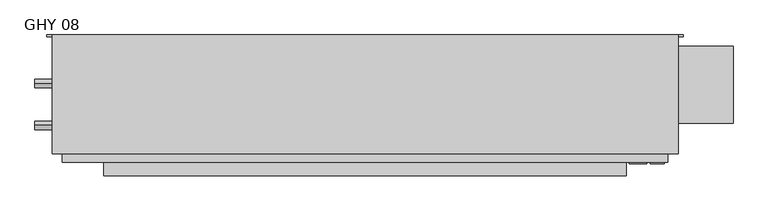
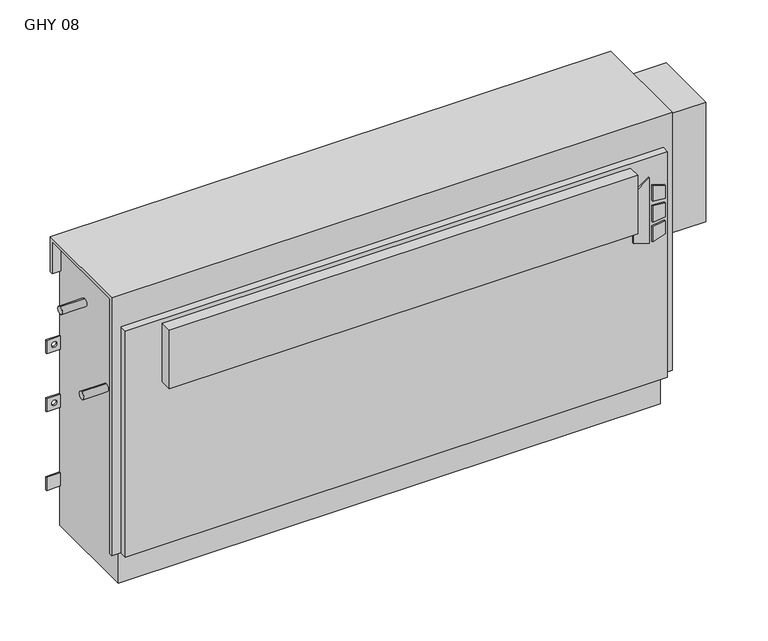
"""IFC4 building model written with IfcOpenShell, lengths in millimetres: proxy geometry, Vertical_Fan_Coil_Unit_-_GHY_-_IEC_-_2-Pipe_FS-FR_LH_2022 : GHY 08."""

from ifc_helpers import new_model, si_unit, point, frame, frame_2d, origin, place, context, project, spatial, polyline, circle_curve, trimmed, segment, composite_curve, outline, extrude, source, transform, mapped, element, save
from ifc_brep_helpers import plane_surface, revolved_surface, advanced_brep


def ghy_08_79be1acd(model_context):
    return source(origin(), model_context, "Body", "SolidModel", [
        extrude(outline(polyline([(391.6086829, 639.8368862), (381.6606126, 672.0102728), (523.831537, 672.0102728), (500.8095309, 639.8368862), (391.6086829, 639.8368862)])), frame((0.0, 6.35, 0.0), z_axis=(0.0, 1.0, 0.0), x_axis=(0.0, 0.0, 1.0)), (0.0, 0.0, 1.0), 3.175),
        extrude(outline(polyline([(470.6079683, 678.7686058), (467.4055757, 704.85), (496.6344168, 704.85), (504.6988318, 678.7686058), (470.6079683, 678.7686058)])), frame((0.0, 6.35, 0.0), z_axis=(0.0, 1.0, 0.0), x_axis=(0.0, 0.0, 1.0)), (0.0, 0.0, 1.0), 3.175),
        extrude(outline(polyline([(418.7444414, 704.85), (415.0789404, 678.7686058), (381.6606126, 678.7686058), (390.2948498, 704.85), (418.7444414, 704.85)])), frame((0.0, 6.35, 0.0), z_axis=(0.0, 1.0, 0.0), x_axis=(0.0, 0.0, 1.0)), (0.0, 0.0, 1.0), 3.175),
        extrude(outline(polyline([(458.0596028, 704.85), (460.3414292, 678.7686058), (424.4038806, 678.7686058), (427.1451456, 704.85), (458.0596028, 704.85)])), frame((0.0, 6.35, 0.0), z_axis=(0.0, 1.0, 0.0), x_axis=(0.0, 0.0, 1.0)), (0.0, 0.0, 1.0), 3.175),
        extrude(outline(polyline([(635.0, -15.875), (-330.2, -15.875), (-330.2, 9.525), (635.0, 9.525), (635.0, -15.875)])), frame((0.0, 0.0, 428.625), z_axis=(0.0, 0.0, 1.0), x_axis=(1.0, 0.0, 0.0)), (0.0, 0.0, 1.0), 127.0),
        extrude(outline(composite_curve([segment(trimmed(circle_curve(frame_2d((77.597, 401.574)), 7.9375), [point((77.597, 409.5115))], [point((77.597, 393.6365))], False, "CARTESIAN"), True, "CONTINUOUS"), segment(trimmed(circle_curve(frame_2d((77.597, 401.574)), 7.9375), [point((77.597, 393.6365))], [point((77.597, 409.5115))], False, "CARTESIAN"), True, "CONTINUOUS")], self_intersect=False)), frame((-457.2, 0.0, 0.0), z_axis=(1.0, 0.0, 0.0), x_axis=(0.0, 1.0, 0.0)), (0.0, 0.0, 1.0), 50.8),
        extrude(outline(composite_curve([segment(trimmed(circle_curve(frame_2d((154.559, 540.512)), 7.9375), [point((154.559, 548.4495))], [point((154.559, 532.5745))], False, "CARTESIAN"), True, "CONTINUOUS"), segment(trimmed(circle_curve(frame_2d((154.559, 540.512)), 7.9375), [point((154.559, 532.5745))], [point((154.559, 548.4495))], False, "CARTESIAN"), True, "CONTINUOUS")], self_intersect=False)), frame((-457.2, 0.0, 0.0), z_axis=(1.0, 0.0, 0.0), x_axis=(0.0, 1.0, 0.0)), (0.0, 0.0, 1.0), 50.8),
        extrude(outline(polyline([(831.85, 223.266), (831.85, 81.534), (711.2, 81.534), (711.2, 223.266), (831.85, 223.266)])), frame((0.0, 0.0, 327.025), z_axis=(0.0, 0.0, 1.0), x_axis=(1.0, 0.0, 0.0)), (0.0, 0.0, 1.0), 260.35),
        advanced_brep(
        [(730.25, 244.475, 635.0), (-425.45, 244.475, 635.0), (-425.45, 25.4, 635.0), (730.25, 25.4, 635.0), (-406.4, 244.475, 0.0), (711.2, 244.475, 0.0), (711.2, 34.925, 0.0), (-406.4, 34.925, 0.0), (730.25, 244.475, 558.8), (711.2, 244.475, 558.8), (711.2, 244.475, 414.3375), (739.775, 244.475, 414.3375), (739.775, 244.475, 385.7625), (711.2, 244.475, 385.7625), (711.2, 244.475, 287.3375), (739.775, 244.475, 287.3375), (739.775, 244.475, 258.7625), (711.2, 244.475, 258.7625), (711.2, 244.475, 141.2875), (739.775, 244.475, 141.2875), (739.775, 244.475, 112.7125), (711.2, 244.475, 112.7125), (-406.4, 244.475, 87.3125), (-434.975, 244.475, 87.3125), (-434.975, 244.475, 115.8875), (-406.4, 244.475, 115.8875), (-406.4, 244.475, 258.7625), (-434.975, 244.475, 258.7625), (-434.975, 244.475, 287.3375), (-406.4, 244.475, 287.3375), (-406.4, 244.475, 385.7625), (-434.975, 244.475, 385.7625), (-434.975, 244.475, 414.3375), (-406.4, 244.475, 414.3375), (-406.4, 244.475, 558.8), (-425.45, 244.475, 558.8), (729.4626, 244.475, 127.0), (718.3374, 244.475, 127.0), (729.4626, 244.475, 273.05), (718.3374, 244.475, 273.05), (-413.5374, 244.475, 273.05), (-424.6626, 244.475, 273.05), (729.4626, 244.475, 400.05), (718.3374, 244.475, 400.05), (-413.5374, 244.475, 400.05), (-424.6626, 244.475, 400.05), (-425.45, 238.125, 558.8), (-425.45, 238.125, 628.65), (-425.45, 31.75, 628.65), (-425.45, 31.75, 73.025), (-425.45, 25.4, 73.025), (711.2, 9.525, 565.15), (-406.4, 9.525, 565.15), (-406.4, 9.525, 73.025), (711.2, 9.525, 73.025), (730.25, 25.4, 73.025), (730.25, 31.75, 73.025), (730.25, 31.75, 628.65), (730.25, 238.125, 628.65), (730.25, 238.125, 558.8), (-406.4, 25.4, 73.025), (-406.4, 25.4, 565.15), (711.2, 25.4, 565.15), (711.2, 25.4, 73.025), (-406.4, 31.75, 73.025), (-406.4, 34.925, 73.025), (711.2, 34.925, 73.025), (711.2, 31.75, 73.025), (711.2, 241.3, 112.7125), (711.2, 241.3, 141.2875), (711.2, 241.3, 258.7625), (711.2, 241.3, 287.3375), (711.2, 241.3, 385.7625), (711.2, 241.3, 414.3375), (711.2, 238.125, 558.8), (711.2, 238.125, 628.65), (711.2, 31.75, 628.65), (-406.4, 31.75, 628.65), (-406.4, 238.125, 628.65), (-406.4, 238.125, 558.8), (-406.4, 241.3, 414.3375), (-406.4, 241.3, 385.7625), (-406.4, 241.3, 287.3375), (-406.4, 241.3, 258.7625), (-406.4, 241.3, 115.8875), (-406.4, 241.3, 87.3125), (739.775, 241.3, 112.7125), (739.775, 241.3, 141.2875), (718.3374, 241.3, 127.0), (729.4626, 241.3, 127.0), (739.775, 241.3, 258.7625), (739.775, 241.3, 287.3375), (718.3374, 241.3, 273.05), (729.4626, 241.3, 273.05), (739.775, 241.3, 385.7625), (739.775, 241.3, 414.3375), (718.3374, 241.3, 400.05), (729.4626, 241.3, 400.05), (-434.975, 241.3, 115.8875), (-434.975, 241.3, 87.3125), (-434.975, 241.3, 287.3375), (-434.975, 241.3, 258.7625), (-424.6626, 241.3, 273.05), (-413.5374, 241.3, 273.05), (-434.975, 241.3, 414.3375), (-434.975, 241.3, 385.7625), (-424.6626, 241.3, 400.05), (-413.5374, 241.3, 400.05)],
        [
            (0, 1),
            (1, 2),
            (2, 3),
            (3, 0),
            (4, 5),
            (5, 6),
            (6, 7),
            (7, 4),
            (0, 8),
            (8, 9),
            (9, 10),
            (10, 11),
            (11, 12),
            (12, 13),
            (13, 14),
            (14, 15),
            (15, 16),
            (16, 17),
            (17, 18),
            (18, 19),
            (19, 20),
            (20, 21),
            (21, 5),
            (4, 22),
            (22, 23),
            (23, 24),
            (24, 25),
            (25, 26),
            (26, 27),
            (27, 28),
            (28, 29),
            (29, 30),
            (30, 31),
            (31, 32),
            (32, 33),
            (33, 34),
            (34, 35),
            (35, 1),
            (36, 37, circle_curve(frame((723.9, 244.475, 127.0), z_axis=(0.0, -1.0, 0.0), x_axis=(-1.0, 0.0, 0.0)), 5.5626)),
            (37, 36, circle_curve(frame((723.9, 244.475, 127.0), z_axis=(0.0, -1.0, 0.0), x_axis=(-1.0, 0.0, 0.0)), 5.5626)),
            (38, 39, circle_curve(frame((723.9, 244.475, 273.05), z_axis=(0.0, -1.0, 0.0), x_axis=(-1.0, 0.0, 0.0)), 5.5626)),
            (39, 38, circle_curve(frame((723.9, 244.475, 273.05), z_axis=(0.0, -1.0, 0.0), x_axis=(-1.0, 0.0, 0.0)), 5.5626)),
            (40, 41, circle_curve(frame((-419.1, 244.475, 273.05), z_axis=(0.0, -1.0, 0.0), x_axis=(-1.0, 0.0, 0.0)), 5.5626)),
            (41, 40, circle_curve(frame((-419.1, 244.475, 273.05), z_axis=(0.0, -1.0, 0.0), x_axis=(-1.0, 0.0, 0.0)), 5.5626)),
            (42, 43, circle_curve(frame((723.9, 244.475, 400.05), z_axis=(0.0, -1.0, 0.0), x_axis=(-1.0, 0.0, 0.0)), 5.5626)),
            (43, 42, circle_curve(frame((723.9, 244.475, 400.05), z_axis=(0.0, -1.0, 0.0), x_axis=(-1.0, 0.0, 0.0)), 5.5626)),
            (44, 45, circle_curve(frame((-419.1, 244.475, 400.05), z_axis=(0.0, -1.0, 0.0), x_axis=(-1.0, 0.0, 0.0)), 5.5626)),
            (45, 44, circle_curve(frame((-419.1, 244.475, 400.05), z_axis=(0.0, -1.0, 0.0), x_axis=(-1.0, 0.0, 0.0)), 5.5626)),
            (35, 46),
            (46, 47),
            (47, 48),
            (48, 49),
            (49, 50),
            (50, 2),
            (51, 52),
            (52, 53),
            (53, 54),
            (54, 51),
            (3, 55),
            (55, 56),
            (56, 57),
            (57, 58),
            (58, 59),
            (59, 8),
            (50, 60),
            (60, 61),
            (61, 62),
            (62, 63),
            (63, 55),
            (51, 62),
            (61, 52),
            (53, 60),
            (49, 64),
            (64, 65),
            (65, 66),
            (66, 67),
            (67, 56),
            (63, 54),
            (6, 66),
            (65, 7),
            (21, 68),
            (68, 69),
            (69, 18),
            (17, 70),
            (70, 71),
            (71, 14),
            (13, 72),
            (72, 73),
            (73, 10),
            (9, 74),
            (74, 75),
            (75, 76),
            (76, 67),
            (64, 77),
            (77, 78),
            (78, 79),
            (79, 34),
            (33, 80),
            (80, 81),
            (81, 30),
            (29, 82),
            (82, 83),
            (83, 26),
            (25, 84),
            (84, 85),
            (85, 22),
            (74, 59),
            (58, 75),
            (76, 57),
            (48, 77),
            (79, 46),
            (78, 47),
            (68, 86),
            (86, 87),
            (87, 69),
            (88, 89, circle_curve(frame((723.9, 241.3, 127.0), z_axis=(0.0, 1.0, 0.0), x_axis=(-1.0, 0.0, 0.0)), 5.5626)),
            (89, 88, circle_curve(frame((723.9, 241.3, 127.0), z_axis=(0.0, 1.0, 0.0), x_axis=(-1.0, 0.0, 0.0)), 5.5626)),
            (90, 91),
            (91, 71),
            (70, 90),
            (92, 93, circle_curve(frame((723.9, 241.3, 273.05), z_axis=(0.0, 1.0, 0.0), x_axis=(-1.0, 0.0, 0.0)), 5.5626)),
            (93, 92, circle_curve(frame((723.9, 241.3, 273.05), z_axis=(0.0, 1.0, 0.0), x_axis=(-1.0, 0.0, 0.0)), 5.5626)),
            (94, 95),
            (95, 73),
            (72, 94),
            (96, 97, circle_curve(frame((723.9, 241.3, 400.05), z_axis=(0.0, 1.0, 0.0), x_axis=(-1.0, 0.0, 0.0)), 5.5626)),
            (97, 96, circle_curve(frame((723.9, 241.3, 400.05), z_axis=(0.0, 1.0, 0.0), x_axis=(-1.0, 0.0, 0.0)), 5.5626)),
            (98, 99),
            (99, 85),
            (84, 98),
            (82, 100),
            (100, 101),
            (101, 83),
            (102, 103, circle_curve(frame((-419.1, 241.3, 273.05), z_axis=(0.0, 1.0, 0.0), x_axis=(-1.0, 0.0, 0.0)), 5.5626)),
            (103, 102, circle_curve(frame((-419.1, 241.3, 273.05), z_axis=(0.0, 1.0, 0.0), x_axis=(-1.0, 0.0, 0.0)), 5.5626)),
            (104, 105),
            (105, 81),
            (80, 104),
            (106, 107, circle_curve(frame((-419.1, 241.3, 400.05), z_axis=(0.0, 1.0, 0.0), x_axis=(-1.0, 0.0, 0.0)), 5.5626)),
            (107, 106, circle_curve(frame((-419.1, 241.3, 400.05), z_axis=(0.0, 1.0, 0.0), x_axis=(-1.0, 0.0, 0.0)), 5.5626)),
            (87, 19),
            (86, 20),
            (16, 90),
            (91, 15),
            (12, 94),
            (95, 11),
            (24, 98),
            (99, 23),
            (101, 27),
            (100, 28),
            (32, 104),
            (105, 31),
            (88, 37),
            (36, 89),
            (92, 39),
            (38, 93),
            (102, 41),
            (40, 103),
            (96, 43),
            (42, 97),
            (106, 45),
            (44, 107),
        ],
        [
            plane_surface(frame((-425.45, 244.475, 635.0), z_axis=(0.0, 0.0, 1.0), x_axis=(-1.0, 0.0, 0.0))),
            plane_surface(frame((-425.45, 244.475, 0.0), z_axis=(0.0, 0.0, -1.0), x_axis=(1.0, 0.0, 0.0))),
            plane_surface(frame((730.25, 244.475, 635.0), z_axis=(0.0, 1.0, 0.0), x_axis=(0.0, 0.0, -1.0))),
            plane_surface(frame((-425.45, 244.475, 635.0), z_axis=(-1.0, 0.0, 0.0), x_axis=(0.0, 0.0, -1.0))),
            plane_surface(frame((-425.45, 9.525, 635.0), z_axis=(0.0, -1.0, 0.0), x_axis=(0.0, 0.0, -1.0))),
            plane_surface(frame((730.25, 9.525, 635.0), z_axis=(1.0, 0.0, 0.0), x_axis=(0.0, 0.0, -1.0))),
            plane_surface(frame((-704.85, 25.4, 635.0), z_axis=(0.0, -1.0, 0.0), x_axis=(1.0, 0.0, 0.0))),
            plane_surface(frame((-704.85, 25.4, 565.15), z_axis=(0.0, 0.0, 1.0), x_axis=(1.0, 0.0, 0.0))),
            plane_surface(frame((-425.45, 9.525, 73.025), z_axis=(0.0, 0.0, -1.0), x_axis=(1.0, 0.0, 0.0))),
            plane_surface(frame((-425.45, 34.925, 73.025), z_axis=(0.0, -1.0, 0.0), x_axis=(1.0, 0.0, 0.0))),
            plane_surface(frame((711.2, 25.4, 73.025), z_axis=(1.0, 0.0, 0.0), x_axis=(0.0, -1.0, 0.0))),
            plane_surface(frame((-406.4, 25.4, 565.15), z_axis=(-1.0, 0.0, 0.0), x_axis=(0.0, -1.0, 0.0))),
            plane_surface(frame((711.2, 244.475, 0.0), z_axis=(1.0, 0.0, 0.0), x_axis=(0.0, -1.0, 0.0))),
            plane_surface(frame((-406.4, 244.475, 73.025), z_axis=(-1.0, 0.0, 0.0), x_axis=(0.0, -1.0, 0.0))),
            plane_surface(frame((711.2, 238.125, 628.65), z_axis=(0.0, -1.0, 0.0), x_axis=(1.0, 0.0, 0.0))),
            plane_surface(frame((711.2, 238.125, 558.8), z_axis=(0.0, 0.0, -1.0), x_axis=(1.0, 0.0, 0.0))),
            plane_surface(frame((711.2, 31.75, 73.025), z_axis=(0.0, 1.0, 0.0), x_axis=(1.0, 0.0, 0.0))),
            plane_surface(frame((711.2, 31.75, 628.65), z_axis=(0.0, 0.0, -1.0), x_axis=(1.0, 0.0, 0.0))),
            plane_surface(frame((-406.4, 31.75, 628.65), z_axis=(0.0, 1.0, 0.0), x_axis=(-1.0, 0.0, 0.0))),
            plane_surface(frame((-406.4, 244.475, 558.8), z_axis=(0.0, 0.0, -1.0), x_axis=(-1.0, 0.0, 0.0))),
            plane_surface(frame((-406.4, 238.125, 558.8), z_axis=(0.0, -1.0, 0.0), x_axis=(-1.0, 0.0, 0.0))),
            plane_surface(frame((-406.4, 238.125, 628.65), z_axis=(0.0, 0.0, -1.0), x_axis=(-1.0, 0.0, 0.0))),
            plane_surface(frame((739.775, 241.3, 141.2875), z_axis=(0.0, -1.0, 0.0), x_axis=(-1.0, 0.0, 0.0))),
            plane_surface(frame((711.2, 244.475, 141.2875), z_axis=(0.0, 0.0, 1.0), x_axis=(0.0, -1.0, 0.0))),
            plane_surface(frame((739.775, 244.475, 141.2875), z_axis=(1.0, 0.0, 0.0), x_axis=(0.0, -1.0, 0.0))),
            plane_surface(frame((739.775, 244.475, 112.7125), z_axis=(0.0, 0.0, -1.0), x_axis=(0.0, -1.0, 0.0))),
            plane_surface(frame((739.775, 244.475, 258.7625), z_axis=(0.0, 0.0, -1.0), x_axis=(0.0, -1.0, 0.0))),
            plane_surface(frame((711.2, 244.475, 287.3375), z_axis=(0.0, 0.0, 1.0), x_axis=(0.0, -1.0, 0.0))),
            plane_surface(frame((739.775, 244.475, 287.3375), z_axis=(1.0, 0.0, 0.0), x_axis=(0.0, -1.0, 0.0))),
            plane_surface(frame((739.775, 244.475, 385.7625), z_axis=(0.0, 0.0, -1.0), x_axis=(0.0, -1.0, 0.0))),
            plane_surface(frame((711.2, 244.475, 414.3375), z_axis=(0.0, 0.0, 1.0), x_axis=(0.0, -1.0, 0.0))),
            plane_surface(frame((739.775, 244.475, 414.3375), z_axis=(1.0, 0.0, 0.0), x_axis=(0.0, -1.0, 0.0))),
            plane_surface(frame((-434.975, 244.475, 115.8875), z_axis=(0.0, 0.0, 1.0), x_axis=(0.0, -1.0, 0.0))),
            plane_surface(frame((-406.4, 244.475, 87.3125), z_axis=(0.0, 0.0, -1.0), x_axis=(0.0, -1.0, 0.0))),
            plane_surface(frame((-434.975, 244.475, 87.3125), z_axis=(-1.0, 0.0, 0.0), x_axis=(0.0, -1.0, 0.0))),
            plane_surface(frame((-406.4, 244.475, 258.7625), z_axis=(0.0, 0.0, -1.0), x_axis=(0.0, -1.0, 0.0))),
            plane_surface(frame((-434.975, 244.475, 258.7625), z_axis=(-1.0, 0.0, 0.0), x_axis=(0.0, -1.0, 0.0))),
            plane_surface(frame((-434.975, 244.475, 287.3375), z_axis=(0.0, 0.0, 1.0), x_axis=(0.0, -1.0, 0.0))),
            plane_surface(frame((-434.975, 244.475, 414.3375), z_axis=(0.0, 0.0, 1.0), x_axis=(0.0, -1.0, 0.0))),
            plane_surface(frame((-406.4, 244.475, 385.7625), z_axis=(0.0, 0.0, -1.0), x_axis=(0.0, -1.0, 0.0))),
            plane_surface(frame((-434.975, 244.475, 385.7625), z_axis=(-1.0, 0.0, 0.0), x_axis=(0.0, -1.0, 0.0))),
            revolved_surface(polyline([(718.3374, 241.3, 127.0), (718.3374, 244.475, 127.0)]), (723.9, 244.475, 127.0), (0.0, -1.0, 0.0)),
            revolved_surface(polyline([(718.3374, 241.3, 273.05), (718.3374, 244.475, 273.05)]), (723.9, 244.475, 273.05), (0.0, -1.0, 0.0)),
            revolved_surface(polyline([(-424.6626, 241.3, 273.05), (-424.6626, 244.475, 273.05)]), (-419.1, 244.475, 273.05), (0.0, -1.0, 0.0)),
            revolved_surface(polyline([(718.3374, 241.3, 400.05), (718.3374, 244.475, 400.05)]), (723.9, 244.475, 400.05), (0.0, -1.0, 0.0)),
            revolved_surface(polyline([(-424.6626, 241.3, 400.05), (-424.6626, 244.475, 400.05)]), (-419.1, 244.475, 400.05), (0.0, -1.0, 0.0)),
        ],
        [
            (0, [[1, 2, 3, 4]]),
            (1, [[5, 6, 7, 8]]),
            (2, [[-1, 9, 10, 11, 12, 13, 14, 15, 16, 17, 18, 19, 20, 21, 22, 23, -5, 24, 25, 26, 27, 28, 29, 30, 31, 32, 33, 34, 35, 36, 37, 38], [39, 40], [41, 42], [43, 44], [45, 46], [47, 48]]),
            (3, [[-2, -38, 49, 50, 51, 52, 53, 54]]),
            (4, [[55, 56, 57, 58]]),
            (5, [[-4, 59, 60, 61, 62, 63, 64, -9]]),
            (6, [[-3, -54, 65, 66, 67, 68, 69, -59]]),
            (7, [[-55, 70, -67, 71]]),
            (8, [[-57, 72, -65, -53, 73, 74, 75, 76, 77, -60, -69, 78]]),
            (9, [[-7, 79, -75, 80]]),
            (10, [[-68, -70, -58, -78]]),
            (11, [[-66, -72, -56, -71]]),
            (12, [[-6, -23, 81, 82, 83, -19, 84, 85, 86, -15, 87, 88, 89, -11, 90, 91, 92, 93, -76, -79]]),
            (13, [[-8, -80, -74, 94, 95, 96, 97, -36, 98, 99, 100, -32, 101, 102, 103, -28, 104, 105, 106, -24]]),
            (14, [[-91, 107, -63, 108]]),
            (15, [[-90, -10, -64, -107]]),
            (16, [[-93, 109, -61, -77]]),
            (17, [[-92, -108, -62, -109]]),
            (18, [[-94, -73, -52, 110]]),
            (19, [[-97, 111, -49, -37]]),
            (20, [[-96, 112, -50, -111]]),
            (21, [[-95, -110, -51, -112]]),
            (22, [[113, 114, 115, -82], [116, 117]]),
            (22, [[118, 119, -85, 120], [121, 122]]),
            (22, [[123, 124, -88, 125], [126, 127]]),
            (22, [[128, 129, -105, 130]]),
            (22, [[131, 132, 133, -102], [134, 135]]),
            (22, [[136, 137, -99, 138], [139, 140]]),
            (23, [[-115, 141, -20, -83]]),
            (24, [[-114, 142, -21, -141]]),
            (25, [[-113, -81, -22, -142]]),
            (26, [[-120, -84, -18, 143]]),
            (27, [[-119, 144, -16, -86]]),
            (28, [[-118, -143, -17, -144]]),
            (29, [[-125, -87, -14, 145]]),
            (30, [[-124, 146, -12, -89]]),
            (31, [[-123, -145, -13, -146]]),
            (32, [[-130, -104, -27, 147]]),
            (33, [[-129, 148, -25, -106]]),
            (34, [[-128, -147, -26, -148]]),
            (35, [[-133, 149, -29, -103]]),
            (36, [[-132, 150, -30, -149]]),
            (37, [[-131, -101, -31, -150]]),
            (38, [[-138, -98, -35, 151]]),
            (39, [[-137, 152, -33, -100]]),
            (40, [[-136, -151, -34, -152]]),
            (41, [[153, -39, 154, -116]]),
            (41, [[-153, -117, -154, -40]]),
            (42, [[155, -41, 156, -121]]),
            (42, [[-155, -122, -156, -42]]),
            (43, [[157, -43, 158, -134]]),
            (43, [[-157, -135, -158, -44]]),
            (44, [[159, -45, 160, -126]]),
            (44, [[-159, -127, -160, -46]]),
            (45, [[161, -47, 162, -139]]),
            (45, [[-161, -140, -162, -48]]),
        ],
    ),
    ])


if __name__ == "__main__":
    model = new_model("IFC4")
    model_context = context("Model", 3, world=origin())
    ifc_project = project(units=[si_unit("LENGTHUNIT", "METRE", prefix="MILLI")], contexts=[model_context])
    site = spatial("IfcSite", under=ifc_project)
    building = spatial("IfcBuilding", under=site)
    placement = place(None, origin())
    ghy_08_shape = ghy_08_79be1acd(model_context)
    element("IfcBuildingElementProxy", 1, Name="Vertical_Fan_Coil_Unit_-_GHY_-_IEC_-_2-Pipe_FS-FR_LH_2022 : GHY 08", ObjectType="Vertical_Fan_Coil_Unit_-_GHY_-_IEC_-_2-Pipe_FS-FR_LH_2022 : GHY 08", at=placement, inside=building, context=model_context, shape_type="MappedRepresentation", body=[
        mapped(ghy_08_shape, transform((0.0, 0.0, 0.0), x_axis=(1.0, 0.0, 0.0), y_axis=(0.0, 1.0, 0.0), z_axis=(0.0, 0.0, 1.0))),
    ])
    save(model, "model.ifc")
